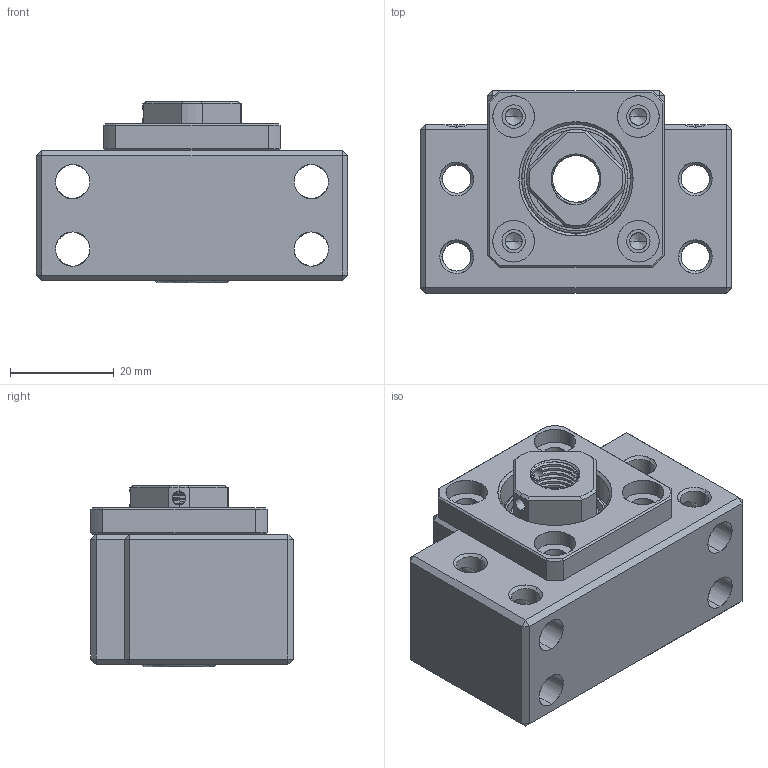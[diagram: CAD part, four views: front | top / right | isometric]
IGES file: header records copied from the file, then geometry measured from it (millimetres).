
Start section: SolidWorks IGES file using analytic representation for surfaces
Global section: file name: Z:\Accessories\_GC_!!!\SYK\Support unit\BK\BK10.IGS; native system: SolidWorks 2015; preprocessor: SolidWorks 2015; author: User; date: 170504.145149; units: millimetre
Bounding box: 60 x 39 x 35 mm (x, y, z)
Surface area: 26955.2 mm2 (no closed solid volume)
Topology: 0 solids, 0 shells, 477 faces, 7105 edges, 7023 vertices
Faces by surface type: bspline 244, revolution 233
